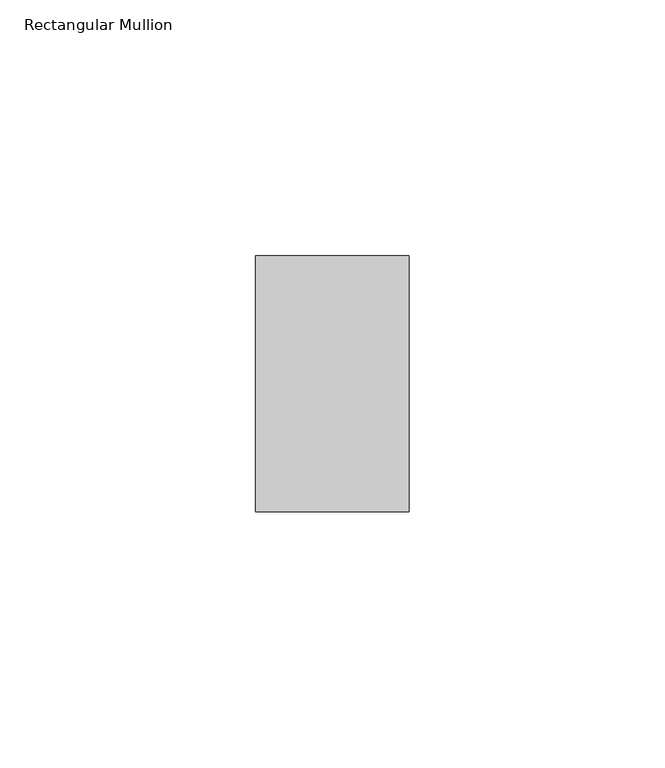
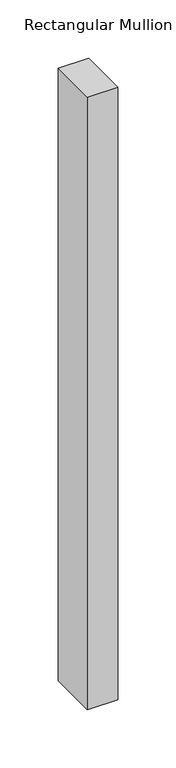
"""IFC4 building model written with IfcOpenShell, lengths in millimetres: member geometry, Rectangular Mullion : ARQ_TV_MULL_50x30mm."""

from ifc_helpers import new_model, si_unit, frame, origin, place, context, project, spatial, polyline, outline, extrude, source, transform, mapped, element, save


def rectangular_mullion_aea8bb05(model_context):
    return source(origin(), model_context, "Body", "SweptSolid", [
        extrude(outline(polyline([(0.0, 25.0), (0.0, -25.0), (-30.0, -25.0), (-30.0, 25.0), (0.0, 25.0)])), frame((0.0, 0.0, -641.8754037), z_axis=(0.0, 0.0, 1.0), x_axis=(1.0, 0.0, 0.0)), (0.0, 0.0, 1.0), 641.8754037),
    ])


if __name__ == "__main__":
    model = new_model("IFC4")
    model_context = context("Model", 3, world=origin())
    ifc_project = project(units=[si_unit("LENGTHUNIT", "METRE", prefix="MILLI")], contexts=[model_context])
    site = spatial("IfcSite", under=ifc_project)
    building = spatial("IfcBuilding", under=site)
    placement = place(None, origin())
    rectangular_mullion_shape = rectangular_mullion_aea8bb05(model_context)
    element("IfcMember", 1, ObjectType="Rectangular Mullion : ARQ_TV_MULL_50x30mm", at=placement, inside=building, context=model_context, shape_type="MappedRepresentation", body=[
        mapped(rectangular_mullion_shape, transform((0.0, 0.0, 0.0), x_axis=(1.0, 0.0, 0.0), y_axis=(0.0, 1.0, 0.0), z_axis=(0.0, 0.0, 1.0))),
    ])
    save(model, "model.ifc")
